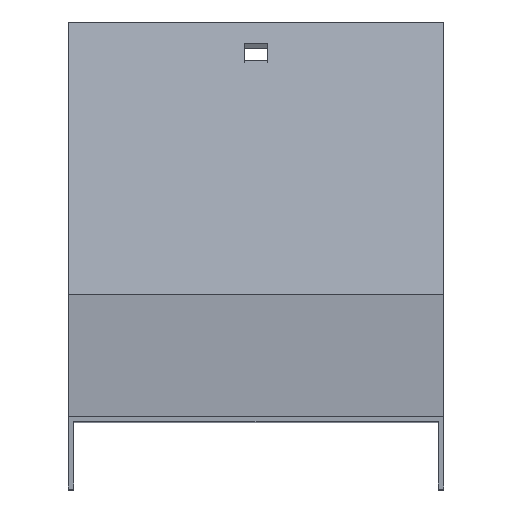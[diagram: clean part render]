
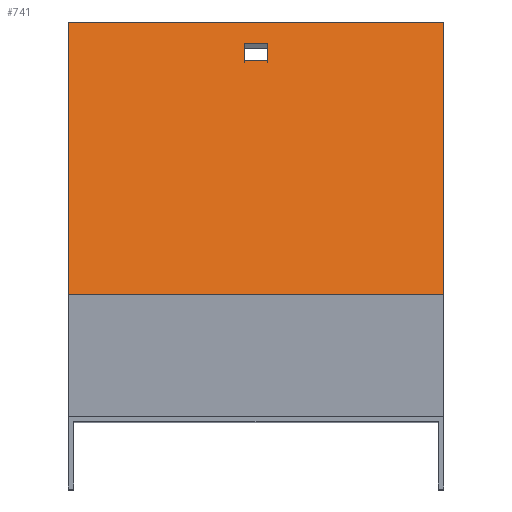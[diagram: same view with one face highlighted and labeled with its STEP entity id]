
A CAD part, top view. The second image highlights one B-rep face of the part: STEP entity #741.
In plain terms, the highlighted planar face has unit normal (0, 0.866, 0.5).
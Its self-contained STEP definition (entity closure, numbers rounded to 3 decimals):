
#4 = LINE ( 'NONE', #139, #494 ) ;
#27 = ORIENTED_EDGE ( 'NONE', *, *, #95, .T. ) ;
#30 = ORIENTED_EDGE ( 'NONE', *, *, #524, .F. ) ;
#38 = VECTOR ( 'NONE', #132, 1000. ) ;
#61 = CARTESIAN_POINT ( 'NONE',  ( -51.5, 34.009, -276.823 ) ) ;
#62 = VECTOR ( 'NONE', #143, 1000. ) ;
#66 = CARTESIAN_POINT ( 'NONE',  ( 51.5, 34.009, -276.823 ) ) ;
#69 = LINE ( 'NONE', #339, #673 ) ;
#71 = LINE ( 'NONE', #66, #38 ) ;
#95 = EDGE_CURVE ( 'NONE', #480, #448, #126, .T. ) ;
#103 = EDGE_CURVE ( 'NONE', #437, #150, #71, .T. ) ;
#109 = FACE_BOUND ( 'NONE', #668, .T. ) ;
#122 = VECTOR ( 'NONE', #359, 1000. ) ;
#126 = LINE ( 'NONE', #410, #666 ) ;
#129 = DIRECTION ( 'NONE',  ( 0., -0.5, 0.866 ) ) ;
#132 = DIRECTION ( 'NONE',  ( -1., 0., 0. ) ) ;
#136 = EDGE_CURVE ( 'NONE', #492, #184, #208, .T. ) ;
#139 = CARTESIAN_POINT ( 'NONE',  ( 3.25, 98.459, -388.453 ) ) ;
#143 = DIRECTION ( 'NONE',  ( -1., 0., 0. ) ) ;
#147 = CARTESIAN_POINT ( 'NONE',  ( -3.25, 102.959, -396.248 ) ) ;
#148 = ORIENTED_EDGE ( 'NONE', *, *, #170, .F. ) ;
#150 = VERTEX_POINT ( 'NONE', #61 ) ;
#156 = EDGE_CURVE ( 'NONE', #184, #290, #69, .T. ) ;
#166 = CARTESIAN_POINT ( 'NONE',  ( -3.25, 98.459, -388.453 ) ) ;
#169 = EDGE_LOOP ( 'NONE', ( #223, #382, #296, #27 ) ) ;
#170 = EDGE_CURVE ( 'NONE', #290, #248, #335, .T. ) ;
#184 = VERTEX_POINT ( 'NONE', #147 ) ;
#186 = DIRECTION ( 'NONE',  ( 0., 0.5, -0.866 ) ) ;
#208 = LINE ( 'NONE', #341, #62 ) ;
#223 = ORIENTED_EDGE ( 'NONE', *, *, #708, .F. ) ;
#228 = ORIENTED_EDGE ( 'NONE', *, *, #156, .F. ) ;
#229 = LINE ( 'NONE', #744, #122 ) ;
#248 = VERTEX_POINT ( 'NONE', #497 ) ;
#254 = LINE ( 'NONE', #767, #631 ) ;
#290 = VERTEX_POINT ( 'NONE', #166 ) ;
#296 = ORIENTED_EDGE ( 'NONE', *, *, #800, .T. ) ;
#330 = VECTOR ( 'NONE', #525, 1000. ) ;
#335 = LINE ( 'NONE', #590, #330 ) ;
#339 = CARTESIAN_POINT ( 'NONE',  ( -3.25, 98.459, -388.453 ) ) ;
#341 = CARTESIAN_POINT ( 'NONE',  ( 3.25, 102.959, -396.248 ) ) ;
#359 = DIRECTION ( 'NONE',  ( 0., 0.5, -0.866 ) ) ;
#382 = ORIENTED_EDGE ( 'NONE', *, *, #103, .F. ) ;
#405 = AXIS2_PLACEMENT_3D ( 'NONE', #704, #634, #129 ) ;
#410 = CARTESIAN_POINT ( 'NONE',  ( 51.5, 108.959, -406.64 ) ) ;
#432 = ORIENTED_EDGE ( 'NONE', *, *, #136, .F. ) ;
#437 = VERTEX_POINT ( 'NONE', #584 ) ;
#448 = VERTEX_POINT ( 'NONE', #808 ) ;
#480 = VERTEX_POINT ( 'NONE', #482 ) ;
#482 = CARTESIAN_POINT ( 'NONE',  ( 51.5, 108.959, -406.64 ) ) ;
#492 = VERTEX_POINT ( 'NONE', #792 ) ;
#494 = VECTOR ( 'NONE', #605, 1000. ) ;
#497 = CARTESIAN_POINT ( 'NONE',  ( 3.25, 98.459, -388.453 ) ) ;
#524 = EDGE_CURVE ( 'NONE', #248, #492, #4, .T. ) ;
#525 = DIRECTION ( 'NONE',  ( 1., 0., 0. ) ) ;
#531 = DIRECTION ( 'NONE',  ( -1., 0., 0. ) ) ;
#584 = CARTESIAN_POINT ( 'NONE',  ( 51.5, 34.009, -276.823 ) ) ;
#590 = CARTESIAN_POINT ( 'NONE',  ( 3.25, 98.459, -388.453 ) ) ;
#598 = DIRECTION ( 'NONE',  ( 0., -0.5, 0.866 ) ) ;
#605 = DIRECTION ( 'NONE',  ( 0., 0.5, -0.866 ) ) ;
#631 = VECTOR ( 'NONE', #186, 1000. ) ;
#634 = DIRECTION ( 'NONE',  ( 0., 0.866, 0.5 ) ) ;
#666 = VECTOR ( 'NONE', #531, 1000. ) ;
#668 = EDGE_LOOP ( 'NONE', ( #30, #148, #228, #432 ) ) ;
#673 = VECTOR ( 'NONE', #598, 1000. ) ;
#704 = CARTESIAN_POINT ( 'NONE',  ( 51.5, 34.009, -276.823 ) ) ;
#708 = EDGE_CURVE ( 'NONE', #150, #448, #229, .T. ) ;
#716 = FACE_OUTER_BOUND ( 'NONE', #169, .T. ) ;
#741 = ADVANCED_FACE ( 'NONE', ( #109, #716 ), #772, .T. ) ;
#744 = CARTESIAN_POINT ( 'NONE',  ( -51.5, 34.009, -276.823 ) ) ;
#767 = CARTESIAN_POINT ( 'NONE',  ( 51.5, 34.009, -276.823 ) ) ;
#772 = PLANE ( 'NONE',  #405 ) ;
#792 = CARTESIAN_POINT ( 'NONE',  ( 3.25, 102.959, -396.248 ) ) ;
#800 = EDGE_CURVE ( 'NONE', #437, #480, #254, .T. ) ;
#808 = CARTESIAN_POINT ( 'NONE',  ( -51.5, 108.959, -406.64 ) ) ;
